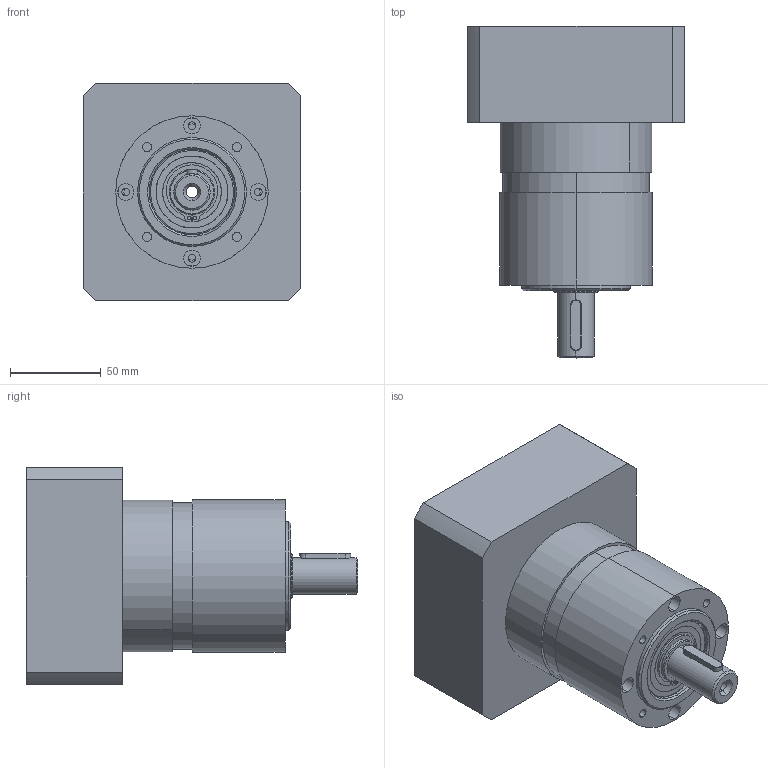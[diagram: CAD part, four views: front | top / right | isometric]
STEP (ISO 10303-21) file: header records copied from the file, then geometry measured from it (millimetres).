
FILE_DESCRIPTION (( 'STEP AP214' ), '1' );
FILE_NAME ('84珨撰-24粣(40840463).STEP', '2017-04-27T15:17:00', ( '' ), ( '' ), 'SwSTEP 2.0', 'SolidWorks 2016', '' );
FILE_SCHEMA (( 'AUTOMOTIVE_DESIGN' ));
Length unit declared in the file: millimetre
Products named in the file (1): 84珨撰-24粣(40840463)
Bounding box: 120 x 182.8 x 120 mm (x, y, z)
Surface area: 115806.9 mm2 (no closed solid volume)
Topology: 0 solids, 12 shells, 151 faces, 476 edges, 339 vertices
Faces by surface type: cylinder 92, plane 38, cone 17, torus 4
Entity records: 7527 total; most frequent: CARTESIAN_POINT 1530, DIRECTION 977, ORIENTED_EDGE 771, EDGE_CURVE 476, AXIS2_PLACEMENT_3D 398, VERTEX_POINT 339, CIRCLE 246, EDGE_LOOP 189
